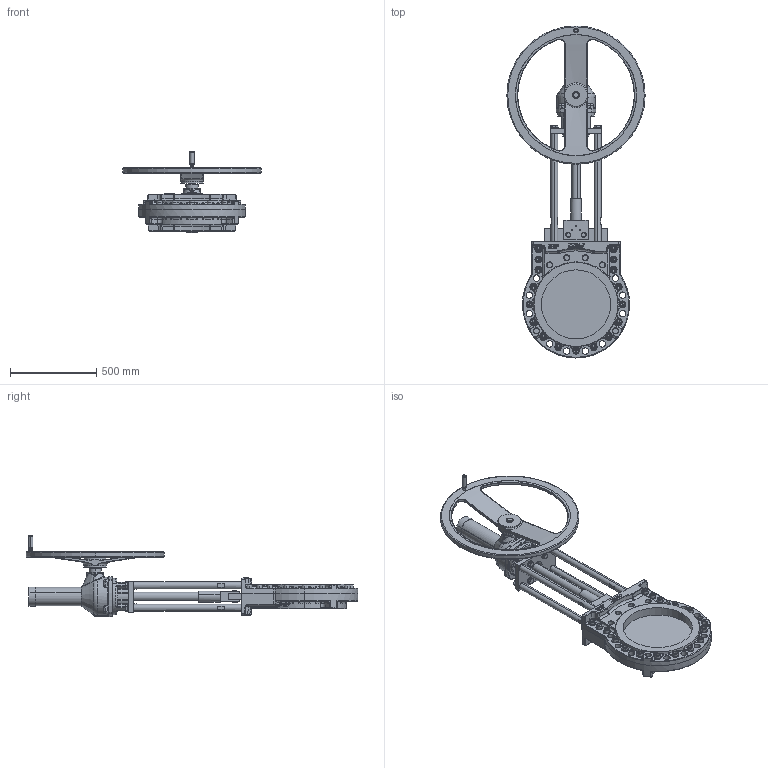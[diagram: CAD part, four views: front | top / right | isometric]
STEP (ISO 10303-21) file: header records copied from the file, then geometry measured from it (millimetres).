
FILE_DESCRIPTION (( 'STEP AP214' ), '1' );
FILE_NAME ('MHA DN 400 GK16.2.STEP', '2015-04-28T08:53:50', ( 'admin' ), ( 'Hewlett-Packard Company' ), 'SwSTEP 2.0', 'SolidWorks 2013', '' );
FILE_SCHEMA (( 'AUTOMOTIVE_DESIGN' ));
Length unit declared in the file: millimetre
Products named in the file (1): MHA DN 400 GK16.2
Bounding box: 800 x 1921 x 470 mm (x, y, z)
Volume: 50196534.5 mm3; surface area: 3527492.9 mm2
Topology: 54 solids, 70 shells, 3142 faces, 7502 edges, 4438 vertices
Faces by surface type: plane 1017, cylinder 837, bspline 545, cone 392, torus 335, sphere 16
Entity records: 150978 total; most frequent: CARTESIAN_POINT 46479, ORIENTED_EDGE 14508, DIRECTION 14407, EDGE_CURVE 7254, AXIS2_PLACEMENT_3D 5732, VERTEX_POINT 4438, EDGE_LOOP 3444, UNCERTAINTY_MEASURE_WITH_UNIT 3196
